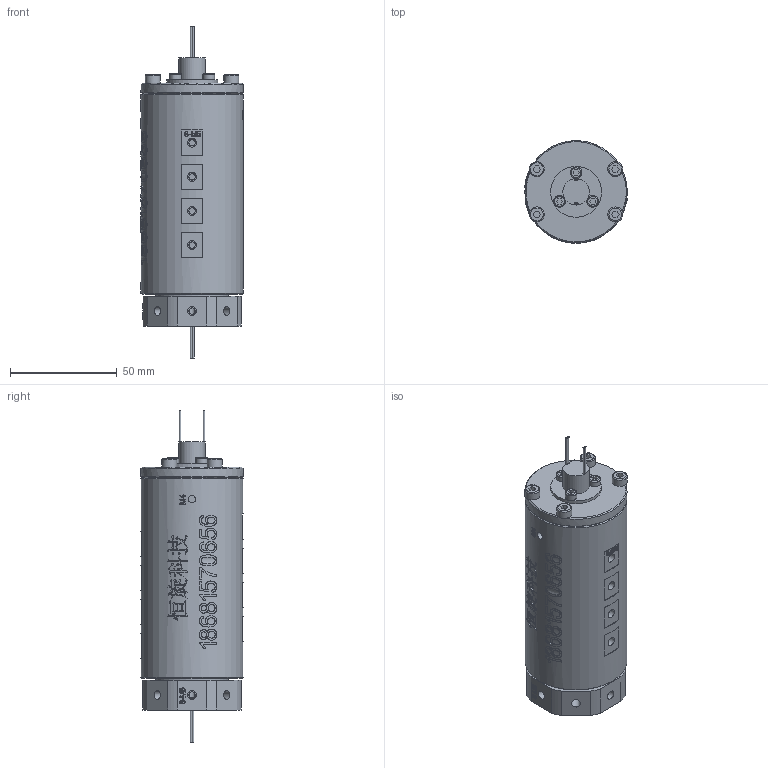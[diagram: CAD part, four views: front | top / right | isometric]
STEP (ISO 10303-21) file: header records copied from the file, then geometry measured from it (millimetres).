
FILE_DESCRIPTION(/* description */ (''),/* implementation_level */ '2;1');
FILE_NAME(/* name */ 'HQ08005-04M-3D模型.stp',/* time_stamp */ '2025-09-01T17:53:48+08:00',/* author */ (''),/* organization */ (''),/* preprocessor_version */ 'ST-DEVELOPER v16.7',/* originating_system */ 'SIEMENS PLM Software NX 12.0',/* authorisation */ '');
FILE_SCHEMA (('AUTOMOTIVE_DESIGN { 1 0 10303 214 3 1 1 1 }'));
Length unit declared in the file: millimetre
Products named in the file (1): AdmiB44865CDwe1d
Bounding box: 48.13 x 48 x 155.8 mm (x, y, z)
Volume: 204038.3 mm3; surface area: 28769.6 mm2
Topology: 1 solids, 4 shells, 1126 faces, 2967 edges, 1968 vertices
Faces by surface type: plane 524, extrusion 417, cylinder 131, bspline 38, cone 9, torus 7
Full cylindrical faces by diameter (mm): 0.8 x8, 3 x27, 3.4 x9, 4.1 x8, 4.2 x24, 5.5 x3, 6 x1, 7 x4, 12.4 x1, 23.9 x1, 34 x1, 42 x1, 48 x2
Entity records: 41325 total; most frequent: CARTESIAN_POINT 17612, ORIENTED_EDGE 5558, DIRECTION 3167, EDGE_CURVE 2779, B_SPLINE_CURVE_WITH_KNOTS 2200, VERTEX_POINT 1896, EDGE_LOOP 1371, ADVANCED_FACE 1122
